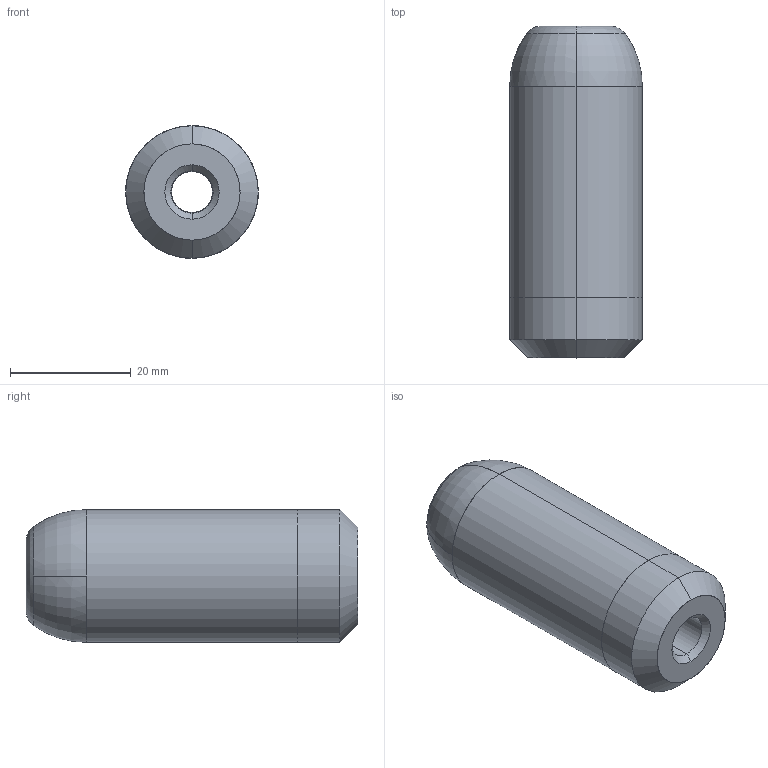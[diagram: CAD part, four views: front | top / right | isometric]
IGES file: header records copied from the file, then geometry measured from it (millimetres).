
Start section: START RECORD GO HERE.
Global section: file name: 700-22-55.igs; native system: DASSAULT SYSTEMES CATIA V5 R20 - www.3ds.com; preprocessor: CATIA Version 5 Release 20 ; author: Utente; organization: NB04-ASUS; date: 20201129.131638; units: millimetre
Bounding box: 22 x 55 x 22 mm (x, y, z)
Surface area: 5278.4 mm2 (no closed solid volume)
Topology: 0 solids, 0 shells, 24 faces, 100 edges, 100 vertices
Faces by surface type: revolution 20, plane 4
